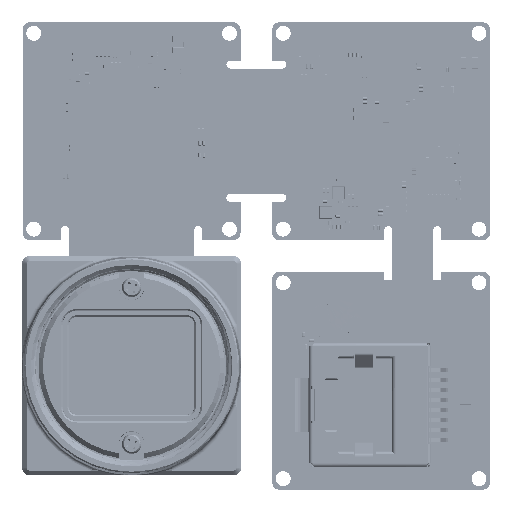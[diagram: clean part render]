
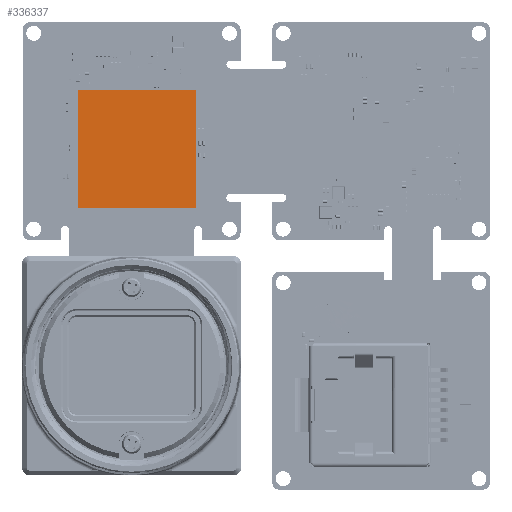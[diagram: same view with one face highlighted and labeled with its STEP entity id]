
A CAD part, top view. The second image highlights one B-rep face of the part: STEP entity #336337.
In plain terms, the highlighted planar face has unit normal (0, 0, 1).
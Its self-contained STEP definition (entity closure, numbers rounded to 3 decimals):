
#360 = CARTESIAN_POINT ( 'NONE',  ( 8.16, 20.2, -0.87 ) ) ;
#88508 = LINE ( 'NONE', #525615, #271795 ) ;
#90603 = EDGE_LOOP ( 'NONE', ( #378878, #646149, #420585, #293470 ) ) ;
#103215 = DIRECTION ( 'NONE',  ( 1., 0., 0. ) ) ;
#111001 = LINE ( 'NONE', #410088, #469033 ) ;
#138098 = FACE_OUTER_BOUND ( 'NONE', #90603, .T. ) ;
#147730 = EDGE_CURVE ( 'NONE', #435818, #280594, #111001, .T. ) ;
#150590 = AXIS2_PLACEMENT_3D ( 'NONE', #360, #362920, #313910 ) ;
#152846 = EDGE_CURVE ( 'NONE', #280594, #164714, #88508, .T. ) ;
#164714 = VERTEX_POINT ( 'NONE', #347895 ) ;
#174664 = VECTOR ( 'NONE', #524599, 1000. ) ;
#211601 = PLANE ( 'NONE',  #150590 ) ;
#271795 = VECTOR ( 'NONE', #478800, 1000. ) ;
#274791 = EDGE_CURVE ( 'NONE', #534729, #435818, #450914, .T. ) ;
#277190 = CARTESIAN_POINT ( 'NONE',  ( -6.84, 20.2, -0.87 ) ) ;
#280594 = VERTEX_POINT ( 'NONE', #542102 ) ;
#293470 = ORIENTED_EDGE ( 'NONE', *, *, #152846, .T. ) ;
#313910 = DIRECTION ( 'NONE',  ( 0., -1., 0. ) ) ;
#333612 = LINE ( 'NONE', #571137, #174664 ) ;
#336337 = ADVANCED_FACE ( 'NONE', ( #138098 ), #211601, .F. ) ;
#347895 = CARTESIAN_POINT ( 'NONE',  ( 8.16, 35.2, -0.87 ) ) ;
#362920 = DIRECTION ( 'NONE',  ( 0., 0., -1. ) ) ;
#378878 = ORIENTED_EDGE ( 'NONE', *, *, #640601, .T. ) ;
#410088 = CARTESIAN_POINT ( 'NONE',  ( -6.84, 20.2, -0.87 ) ) ;
#420585 = ORIENTED_EDGE ( 'NONE', *, *, #147730, .T. ) ;
#435818 = VERTEX_POINT ( 'NONE', #277190 ) ;
#450914 = LINE ( 'NONE', #499746, #657446 ) ;
#469033 = VECTOR ( 'NONE', #103215, 1000. ) ;
#478800 = DIRECTION ( 'NONE',  ( 0., 1., 0. ) ) ;
#499746 = CARTESIAN_POINT ( 'NONE',  ( -6.84, 35.2, -0.87 ) ) ;
#501913 = DIRECTION ( 'NONE',  ( 0., -1., 0. ) ) ;
#524599 = DIRECTION ( 'NONE',  ( -1., 0., 0. ) ) ;
#525615 = CARTESIAN_POINT ( 'NONE',  ( 8.16, 20.2, -0.87 ) ) ;
#534729 = VERTEX_POINT ( 'NONE', #640510 ) ;
#542102 = CARTESIAN_POINT ( 'NONE',  ( 8.16, 20.2, -0.87 ) ) ;
#571137 = CARTESIAN_POINT ( 'NONE',  ( 8.16, 35.2, -0.87 ) ) ;
#640510 = CARTESIAN_POINT ( 'NONE',  ( -6.84, 35.2, -0.87 ) ) ;
#640601 = EDGE_CURVE ( 'NONE', #164714, #534729, #333612, .T. ) ;
#646149 = ORIENTED_EDGE ( 'NONE', *, *, #274791, .T. ) ;
#657446 = VECTOR ( 'NONE', #501913, 1000. ) ;
